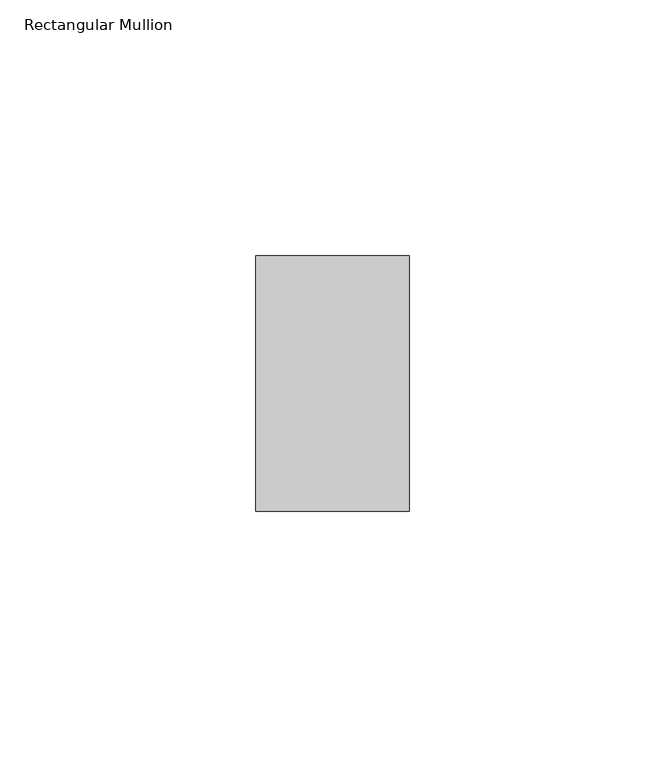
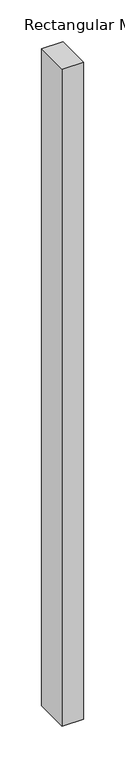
"""IFC4 building model written with IfcOpenShell, lengths in millimetres: member geometry, Rectangular Mullion : ARQ_TV_MULL_50x30mm."""

import ifcopenshell
import ifcopenshell.guid

model = None  # the IFC model being written
_history = None  # IfcOwnerHistory: only IFC2X3 demands one
_inside = {}  # id of a spatial element -> (the spatial element, [elements in it])
_under = {}  # id of a project, library or spatial element -> (it, [spatial elements below it])
_declared = {}  # id of a project -> (the project, [libraries it declares])
_typed = {}  # id of a type object -> (the type object, [elements of that type])
_made_of = {}  # id of a material, layer set ... -> (it, [elements and type objects made of it])


def new_model(schema):
    """Start an empty IFC model of exactly this schema.

    Asked for "IFC4X3", IfcOpenShell would pick the latest addendum, in which some entities
    have other attributes; the version numbers below select the first issue.
    IFC2X3 requires an IfcOwnerHistory on every rooted entity: one is made here for all.
    """
    global model, _history
    if schema == "IFC4X3":
        model = ifcopenshell.file(schema_version=(4, 3, 0, 0))
    else:
        model = ifcopenshell.file(schema=schema)
    _inside.clear()
    _under.clear()
    _declared.clear()
    _typed.clear()
    _made_of.clear()
    _history = None
    if model.schema == "IFC2X3":
        org = make("IfcOrganization", Name="unknown")
        user = make(
            "IfcPersonAndOrganization",
            ThePerson=make("IfcPerson", FamilyName="unknown"),
            TheOrganization=org,
        )
        app = make(
            "IfcApplication",
            ApplicationDeveloper=org,
            Version="unknown",
            ApplicationFullName="unknown",
            ApplicationIdentifier="unknown",
        )
        _history = make(
            "IfcOwnerHistory",
            OwningUser=user,
            OwningApplication=app,
            ChangeAction="ADDED",
            CreationDate=0,
        )
    return model


def make(cls, **values):
    """One entity of the class cls with the attributes given. An attribute that is None is left unset."""
    return model.create_entity(
        cls, **{name: value for name, value in values.items() if value is not None}
    )


def rooted(cls, **values):
    """An entity with a GlobalId (a new one), such as an element, a storey or a relation."""
    return make(cls, GlobalId=ifcopenshell.guid.new(), OwnerHistory=_history, **values)


def si_unit(unit_type, name, prefix=None):
    """IfcSIUnit, for example si_unit("LENGTHUNIT", "METRE", prefix="MILLI")."""
    return make("IfcSIUnit", UnitType=unit_type, Prefix=prefix, Name=name)


def assignment(units):
    """IfcUnitAssignment: the units of a project."""
    return None if units is None else make("IfcUnitAssignment", Units=units)


def point(xyz):
    """IfcCartesianPoint."""
    return None if xyz is None else make("IfcCartesianPoint", Coordinates=xyz)


def direction(xyz):
    """IfcDirection."""
    return None if xyz is None else make("IfcDirection", DirectionRatios=xyz)


def frame(location, z_axis=None, x_axis=None):
    """IfcAxis2Placement3D, a coordinate frame: its origin and axes. An axis left out is left unset."""
    return make(
        "IfcAxis2Placement3D",
        Location=point(location),
        Axis=direction(z_axis),
        RefDirection=direction(x_axis),
    )


def origin():
    """The frame at (0, 0, 0) with its axes left unset."""
    return frame((0.0, 0.0, 0.0))


def place(relative_to, where):
    """IfcLocalPlacement: puts the frame where relative to a parent placement (None: the world)."""
    return make(
        "IfcLocalPlacement", PlacementRelTo=relative_to, RelativePlacement=where
    )


def context(
    kind, dimensions, precision=None, world=None, true_north=None, identifier=None
):
    """IfcGeometricRepresentationContext, for example the 3D "Model" context."""
    return make(
        "IfcGeometricRepresentationContext",
        ContextIdentifier=identifier,
        ContextType=kind,
        CoordinateSpaceDimension=dimensions,
        Precision=precision,
        WorldCoordinateSystem=world,
        TrueNorth=true_north,
    )


def project(units=None, contexts=None):
    """IfcProject with its units and contexts."""
    return rooted(
        "IfcProject",
        Name="project",
        RepresentationContexts=contexts,
        UnitsInContext=assignment(units),
    )


def spatial(cls, under=None, at=None, **own):
    """A site, building, storey or space (cls), placed at a placement, below another one or the project."""
    s = rooted(cls, ObjectPlacement=at, **own)
    if under is not None:
        _under.setdefault(under.id(), (under, []))[1].append(s)
    return s


def polyline(points):
    """IfcPolyline through the points."""
    return make("IfcPolyline", Points=[point(p) for p in points])


def outline(outer, holes=None, kind="AREA"):
    """IfcArbitraryClosedProfileDef: a profile drawn as a closed curve; with holes, ...WithVoids."""
    if holes is None:
        return make("IfcArbitraryClosedProfileDef", ProfileType=kind, OuterCurve=outer)
    return make(
        "IfcArbitraryProfileDefWithVoids",
        ProfileType=kind,
        OuterCurve=outer,
        InnerCurves=holes,
    )


def extrude(swept, where, along, depth):
    """IfcExtrudedAreaSolid: the profile swept, set in the frame where, extruded along a direction by depth."""
    return make(
        "IfcExtrudedAreaSolid",
        SweptArea=swept,
        Position=where,
        ExtrudedDirection=direction(along),
        Depth=depth,
    )


def shape(context_of_items, identifier, shape_type, items):
    """IfcShapeRepresentation: the items that make up one representation, for example the "Body"."""
    return make(
        "IfcShapeRepresentation",
        ContextOfItems=context_of_items,
        RepresentationIdentifier=identifier,
        RepresentationType=shape_type,
        Items=items,
    )


def source(mapping_origin, context_of_items, identifier, shape_type, items):
    """IfcRepresentationMap: a shape defined once, which mapped items show again and again."""
    return make(
        "IfcRepresentationMap",
        MappingOrigin=mapping_origin,
        MappedRepresentation=shape(context_of_items, identifier, shape_type, items),
    )


def transform(
    local_origin,
    x_axis=None,
    y_axis=None,
    z_axis=None,
    scale=None,
    scale2=None,
    scale3=None,
    uniform=True,
):
    """IfcCartesianTransformationOperator3D, or its non-uniform kind. x_axis, y_axis, z_axis: its Axis1, 2, 3."""
    if uniform:
        return make(
            "IfcCartesianTransformationOperator3D",
            Axis1=direction(x_axis),
            Axis2=direction(y_axis),
            LocalOrigin=point(local_origin),
            Scale=scale,
            Axis3=direction(z_axis),
        )
    return make(
        "IfcCartesianTransformationOperator3DnonUniform",
        Axis1=direction(x_axis),
        Axis2=direction(y_axis),
        LocalOrigin=point(local_origin),
        Scale=scale,
        Axis3=direction(z_axis),
        Scale2=scale2,
        Scale3=scale3,
    )


def mapped(mapping_source, mapping_target):
    """IfcMappedItem: shows the shape of a source again, moved by a transform."""
    return make(
        "IfcMappedItem", MappingSource=mapping_source, MappingTarget=mapping_target
    )


def made_of(thing, what):
    """Note that an element or type object is made of a material, layer set ...; save() writes the relation."""
    if what is not None:
        _made_of.setdefault(what.id(), (what, []))[1].append(thing)
    return thing


def element(
    cls,
    number,
    at=None,
    inside=None,
    cuts=None,
    type_object=None,
    material=None,
    context=None,
    identifier="Body",
    shape_type=None,
    held_by="IfcProductDefinitionShape",
    body=None,
    shapes=None,
    **own,
):
    """One element of the class cls, such as IfcWall. Its Tag is "e" and its number.

    at: its placement. inside: the storey or other place that contains it. cuts: it is an
    opening in that element (IfcRelVoidsElement). A single representation is given by context,
    identifier, shape_type and body (its items); several are given by shapes. held_by: the class
    of the entity that holds the representations. save() writes the other relations.
    """
    e = rooted(cls, Tag="e%d" % number, ObjectPlacement=at, **own)
    if body is not None:
        shapes = [shape(context, identifier, shape_type, body)]
    if shapes is not None:
        e.Representation = make(held_by, Representations=shapes)
    if inside is not None:
        _inside.setdefault(inside.id(), (inside, []))[1].append(e)
    if cuts is not None:
        rooted(
            "IfcRelVoidsElement", RelatingBuildingElement=cuts, RelatedOpeningElement=e
        )
    if type_object is not None:
        _typed.setdefault(type_object.id(), (type_object, []))[1].append(e)
    return made_of(e, material)


def aggregate(whole, parts):
    """IfcRelAggregates: a whole, such as a stair, and the parts it consists of."""
    return rooted("IfcRelAggregates", RelatingObject=whole, RelatedObjects=parts)


def save(model, path):
    """Write the relations noted so far, then the file.

    IfcRelAggregates (storeys below a building ...), IfcRelContainedInSpatialStructure (elements
    in a storey), IfcRelDefinesByType, IfcRelAssociatesMaterial and IfcRelDeclares: one each for
    every whole, place, type object, material and project.
    """
    for whole, parts in _under.values():
        aggregate(whole, parts)
    for where, things in _inside.values():
        rooted(
            "IfcRelContainedInSpatialStructure",
            RelatedElements=things,
            RelatingStructure=where,
        )
    for kind, things in _typed.values():
        rooted("IfcRelDefinesByType", RelatedObjects=things, RelatingType=kind)
    for what, things in _made_of.values():
        rooted("IfcRelAssociatesMaterial", RelatedObjects=things, RelatingMaterial=what)
    for by, libraries in _declared.values():
        rooted("IfcRelDeclares", RelatingContext=by, RelatedDefinitions=libraries)
    model.write(path)


def rectangular_mullion_abfcaab6(model_context):
    return source(origin(), model_context, "Body", "SweptSolid", [
        extrude(outline(polyline([(0.0, 25.0), (0.0, -25.0), (-30.0, -25.0), (-30.0, 25.0), (0.0, 25.0)])), frame((0.0, 0.0, -966.2499815), z_axis=(0.0, 0.0, 1.0), x_axis=(1.0, 0.0, 0.0)), (0.0, 0.0, 1.0), 966.2499815),
    ])


if __name__ == "__main__":
    model = new_model("IFC4")
    model_context = context("Model", 3, world=origin())
    ifc_project = project(units=[si_unit("LENGTHUNIT", "METRE", prefix="MILLI")], contexts=[model_context])
    site = spatial("IfcSite", under=ifc_project)
    building = spatial("IfcBuilding", under=site)
    placement = place(None, origin())
    rectangular_mullion_shape = rectangular_mullion_abfcaab6(model_context)
    element("IfcMember", 1, ObjectType="Rectangular Mullion : ARQ_TV_MULL_50x30mm", at=placement, inside=building, context=model_context, shape_type="MappedRepresentation", body=[
        mapped(rectangular_mullion_shape, transform((0.0, 0.0, 0.0), x_axis=(1.0, 0.0, 0.0), y_axis=(0.0, 1.0, 0.0), z_axis=(0.0, 0.0, 1.0))),
    ])
    save(model, "model.ifc")
